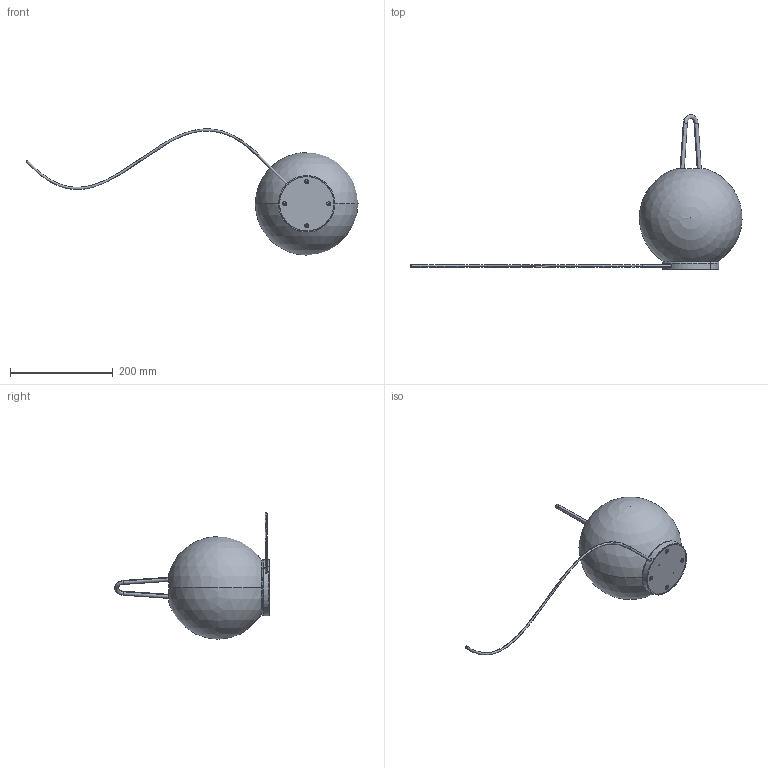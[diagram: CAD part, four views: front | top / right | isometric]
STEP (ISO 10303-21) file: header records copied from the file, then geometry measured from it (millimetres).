
FILE_DESCRIPTION (( 'STEP AP214' ), '1' );
FILE_NAME ('SKIPPER T1- DISEGNO D''INSIEME.STEP', '2022-06-10T14:17:49', ( '' ), ( '' ), 'SwSTEP 2.0', 'SolidWorks 2021', '' );
FILE_SCHEMA (( 'AUTOMOTIVE_DESIGN' ));
Length unit declared in the file: millimetre
Products named in the file (14): DIFFUSORE SKIPPER T1 ø200 ; BASE INFERIORE SKIPPER T1; RONDELLA PA 66-RV  ø7x1 NEUTRO; DISTANZIATORE PA 66-RV  ø6x7 NEUTRO; VITE TPS- M3X12; VITE TPSCE M4X8; CL094; cavo ; BASE SUPERIORE SKIPPER T1; SKIPPER T1- DISEGNO D''INSIEME; SCHERMO; VITE TCB+ M2.5X6; MANIGLIA TAVOLO SKIPPER T1; VITE TBCE M4X8
Assembly tree (23 placements, depth 2):
  SKIPPER T1- DISEGNO D''INSIEME
    BASE INFERIORE SKIPPER T1
    BASE SUPERIORE SKIPPER T1
    MANIGLIA TAVOLO SKIPPER T1
    CL094
    SCHERMO
    DIFFUSORE SKIPPER T1 ø200 
    VITE TPSCE M4X8  x4
    VITE TBCE M4X8  x2
    VITE TCB+ M2.5X6  x3
    RONDELLA PA 66-RV  ø7x1 NEUTRO  x3
    DISTANZIATORE PA 66-RV  ø6x7 NEUTRO  x2
    VITE TPS- M3X12  x2
    cavo 
Bounding box: 646.93 x 302 x 246.06 mm (x, y, z)
Volume: 435955.7 mm3; surface area: 313082.8 mm2
Topology: 23 solids, 23 shells, 561 faces, 1285 edges, 798 vertices
Faces by surface type: plane 256, cylinder 171, cone 82, torus 32, bspline 16, sphere 4
Entity records: 13207 total; most frequent: CARTESIAN_POINT 3687, DIRECTION 1867, ORIENTED_EDGE 1698, EDGE_CURVE 849, AXIS2_PLACEMENT_3D 680, VERTEX_POINT 538, VECTOR 507, LINE 507
